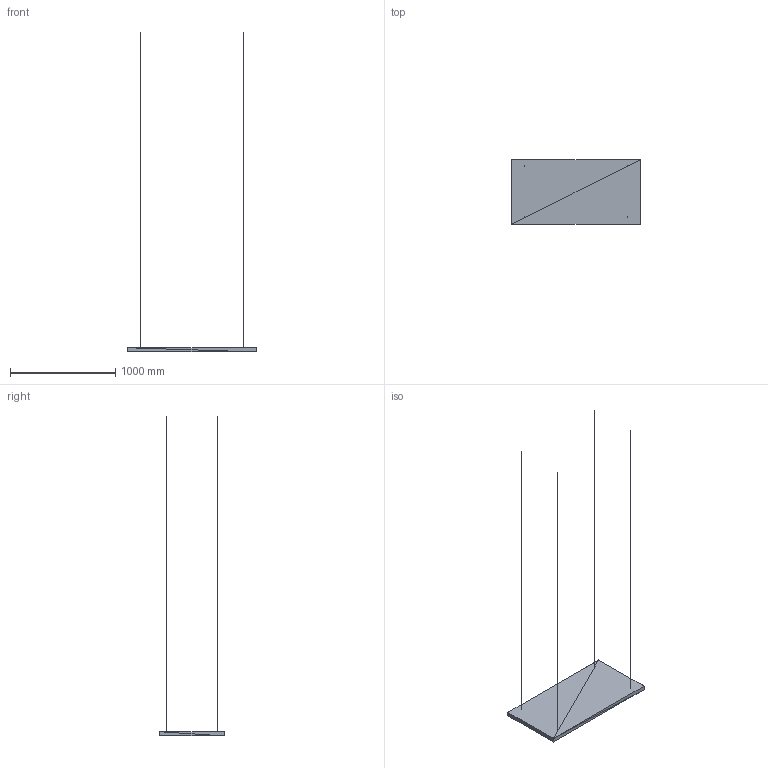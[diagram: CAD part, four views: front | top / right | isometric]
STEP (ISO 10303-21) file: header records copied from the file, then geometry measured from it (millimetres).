
FILE_DESCRIPTION(('ISINAC STEP AP214'),'2;1');
FILE_NAME('ISINAC_R.1220.610_40mm_COLGADO','2026-05-03T10:49:19',('ISINAC'),('www.isinac.com'),'ISINAC BIM Generator 1.0','','');
FILE_SCHEMA(('AUTOMOTIVE_DESIGN'));
Length unit declared in the file: millimetre
Products named in the file (1): ISINAC_R.1220.610_40mm_COLGADO
Bounding box: 1220 x 610 x 3040 mm (x, y, z)
Surface area: 1742846 mm2 (no closed solid volume)
Topology: 0 solids, 92 shells, 92 faces, 276 edges, 276 vertices
Faces by surface type: plane 92
Entity records: 1025 total; most frequent: CARTESIAN_POINT 368, DIRECTION 184, POLY_LOOP 92, FACE_OUTER_BOUND 92, AXIS2_PLACEMENT_3D 92, PLANE 92, FACE_SURFACE 92, CLOSED_SHELL 1
